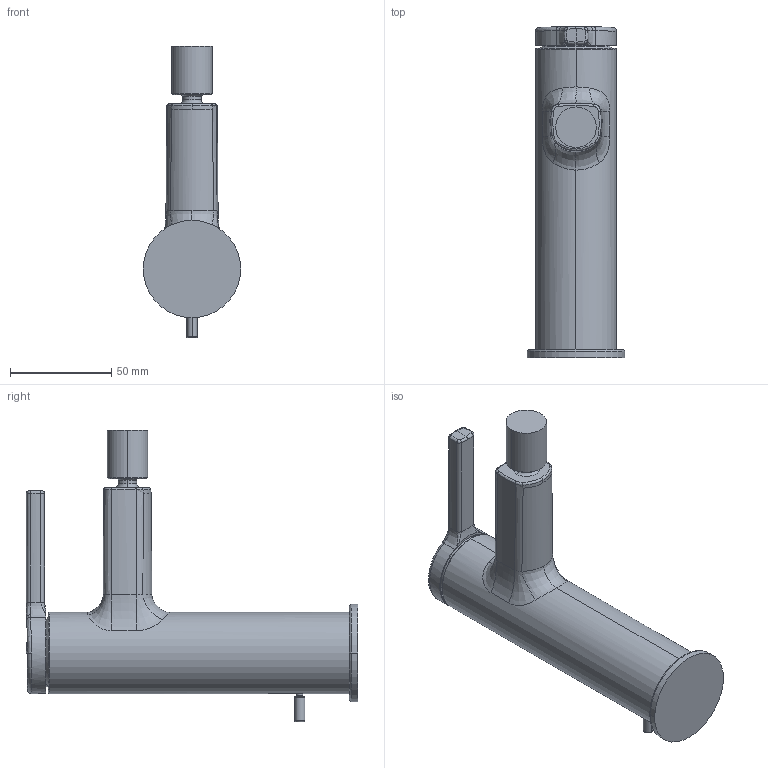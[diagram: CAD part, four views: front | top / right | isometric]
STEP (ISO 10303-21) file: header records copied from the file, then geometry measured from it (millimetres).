
FILE_DESCRIPTION((''),'2;1');
FILE_NAME('509545','2020-07-30T13:22:00',('DB991'),(''),'CREO PARAMETRIC BY PTC INC, 2018500','CREO PARAMETRIC BY PTC INC, 2018500','');
FILE_SCHEMA(('CONFIG_CONTROL_DESIGN'));
Length unit declared in the file: millimetre
Products named in the file (1): 509545
Bounding box: 48 x 163.35 x 143.96 mm (x, y, z)
Volume: 254440 mm3; surface area: 35148.6 mm2
Topology: 1 solids, 1 shells, 149 faces, 359 edges, 215 vertices
Faces by surface type: bspline 49, plane 38, cylinder 36, torus 18, sphere 6, cone 2
Entity records: 7792 total; most frequent: CARTESIAN_POINT 4687, ORIENTED_EDGE 712, DIRECTION 531, EDGE_CURVE 356, AXIS2_PLACEMENT_3D 220, VERTEX_POINT 216, EDGE_LOOP 156, FACE_OUTER_BOUND 149
